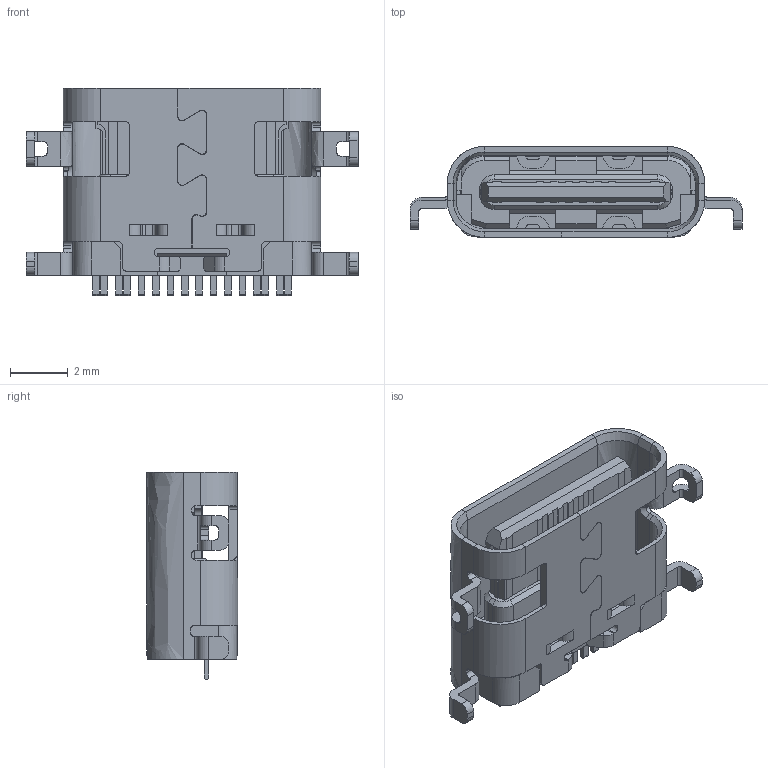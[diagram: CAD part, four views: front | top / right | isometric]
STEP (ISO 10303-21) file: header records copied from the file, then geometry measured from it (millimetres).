
FILE_DESCRIPTION (( 'STEP AP203' ), '1' );
FILE_NAME ('GT-USB-7014B01.STEP', '2023-04-19T07:30:46', ( '' ), ( '' ), 'SwSTEP 2.0', 'SolidWorks 2023', '' );
FILE_SCHEMA (( 'CONFIG_CONTROL_DESIGN' ));
Length unit declared in the file: millimetre
Products named in the file (1): GT-USB-7014B01
Bounding box: 11.54 x 3.17 x 7.2 mm (x, y, z)
Volume: 95.7 mm3; surface area: 439.8 mm2
Topology: 19 solids, 19 shells, 981 faces, 2727 edges, 1779 vertices
Faces by surface type: bspline 779, plane 202
Entity records: 35370 total; most frequent: CARTESIAN_POINT 12695, ORIENTED_EDGE 5454, DIRECTION 3317, EDGE_CURVE 2727, LINE 2193, VECTOR 2193, VERTEX_POINT 1779, EDGE_LOOP 1012
